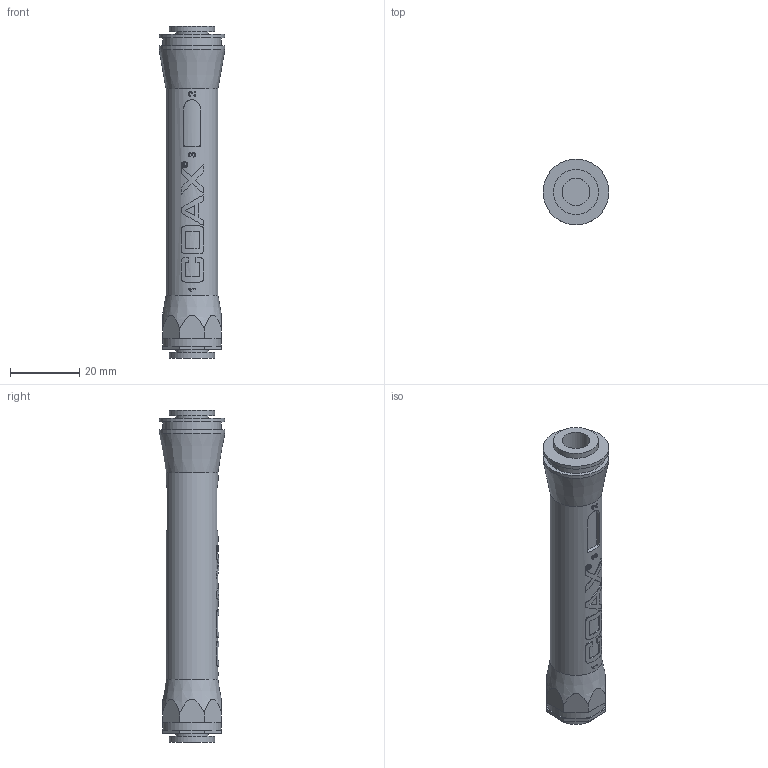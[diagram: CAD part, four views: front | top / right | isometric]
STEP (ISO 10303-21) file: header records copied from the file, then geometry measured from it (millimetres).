
FILE_DESCRIPTION( ( 'Unknown' ), '1' );
FILE_NAME( 'U:/SmarTeam/ISM-IL/0122896.stp', 'Unknown', ( 'Unknown' ), ( 'Unknown' ), 'PSStep 10.0', 'Unknown', ' ' );
FILE_SCHEMA( ( 'automotive_design' ) );
Length unit declared in the file: millimetre
Products named in the file (1): 0104532-oa0
Bounding box: 19 x 19 x 95.8 mm (x, y, z)
Volume: 17576.5 mm3; surface area: 6021.3 mm2
Topology: 1 solids, 1 shells, 174 faces, 429 edges, 280 vertices
Faces by surface type: plane 97, bspline 43, cylinder 30, cone 4
Full cylindrical faces by diameter (mm): 8 x2, 9.5 x2, 13 x2, 15 x1, 16.75 x1, 17 x1, 19 x2
Entity records: 9037 total; most frequent: CARTESIAN_POINT 3902, ORIENTED_EDGE 824, DIRECTION 626, EDGE_CURVE 412, VERTEX_POINT 276, AXIS2_PLACEMENT_3D 221, EDGE_LOOP 210, FACE_OUTER_BOUND 185
